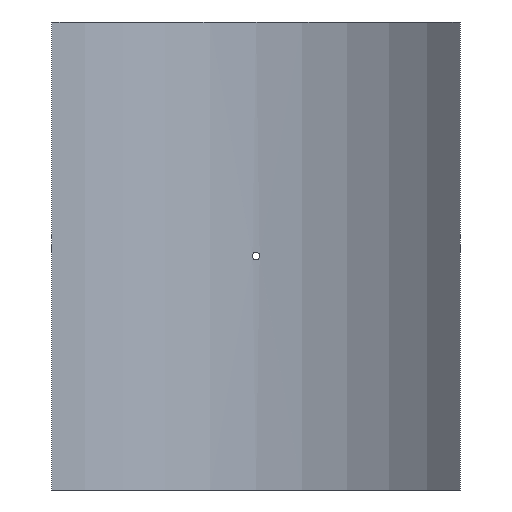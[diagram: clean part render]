
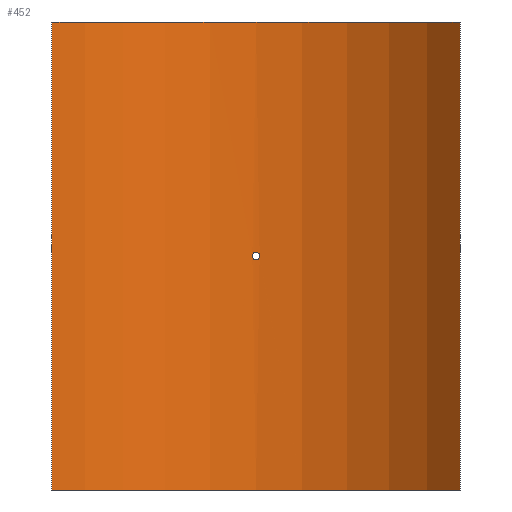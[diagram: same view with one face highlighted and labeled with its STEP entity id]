
A CAD part, front view. The second image highlights one B-rep face of the part: STEP entity #452.
In plain terms, the highlighted cylindrical face has radius 355 mm (diameter 710 mm), a partial arc.
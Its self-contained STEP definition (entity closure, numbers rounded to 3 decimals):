
#19=B_SPLINE_CURVE_WITH_KNOTS('',3,(#788,#789,#790,#791,#792,#793,#794,
#795,#796,#797,#798,#799,#800,#801,#802,#803,#804,#805,#806,#807,#808,#809,
#810,#811,#812,#813,#814,#815,#816,#817,#818,#819,#820,#821),
 .UNSPECIFIED.,.T.,.F.,(4,2,2,2,2,2,2,2,2,2,2,2,2,2,2,2,4),(0.,0.181,
0.362,0.542,0.723,0.904,
1.085,1.266,1.446,1.627,1.808,
1.989,2.17,2.351,2.531,2.712,
2.893),.UNSPECIFIED.);
#43=LINE('',#1081,#62);
#44=LINE('',#1084,#63);
#62=VECTOR('',#661,10.);
#63=VECTOR('',#664,10.);
#76=CYLINDRICAL_SURFACE('',#530,355.);
#88=FACE_BOUND('',#167,.T.);
#127=FACE_OUTER_BOUND('',#166,.T.);
#166=EDGE_LOOP('',(#405,#406,#407,#408));
#167=EDGE_LOOP('',(#409));
#201=CIRCLE('',#529,355.);
#202=CIRCLE('',#531,355.);
#219=VERTEX_POINT('',#786);
#242=VERTEX_POINT('',#1074);
#243=VERTEX_POINT('',#1076);
#244=VERTEX_POINT('',#1080);
#245=VERTEX_POINT('',#1082);
#267=EDGE_CURVE('',#219,#219,#19,.T.);
#299=EDGE_CURVE('',#242,#243,#201,.T.);
#301=EDGE_CURVE('',#244,#242,#43,.T.);
#302=EDGE_CURVE('',#245,#244,#202,.T.);
#303=EDGE_CURVE('',#245,#243,#44,.T.);
#405=ORIENTED_EDGE('',*,*,#301,.F.);
#406=ORIENTED_EDGE('',*,*,#302,.F.);
#407=ORIENTED_EDGE('',*,*,#303,.T.);
#408=ORIENTED_EDGE('',*,*,#299,.F.);
#409=ORIENTED_EDGE('',*,*,#267,.T.);
#452=ADVANCED_FACE('',(#127,#88),#76,.F.);
#529=AXIS2_PLACEMENT_3D('',#1077,#656,#657);
#530=AXIS2_PLACEMENT_3D('',#1079,#659,#660);
#531=AXIS2_PLACEMENT_3D('',#1083,#662,#663);
#656=DIRECTION('center_axis',(0.,0.,1.));
#657=DIRECTION('ref_axis',(0.749,0.662,0.));
#659=DIRECTION('center_axis',(0.,0.,1.));
#660=DIRECTION('ref_axis',(0.749,0.662,0.));
#661=DIRECTION('',(0.,0.,-1.));
#662=DIRECTION('center_axis',(0.,0.,-1.));
#663=DIRECTION('ref_axis',(0.749,0.662,0.));
#664=DIRECTION('',(0.,0.,-1.));
#786=CARTESIAN_POINT('',(4.8,354.968,0.));
#788=CARTESIAN_POINT('Ctrl Pts',(4.8,354.968,0.));
#789=CARTESIAN_POINT('Ctrl Pts',(4.8,354.968,-0.603));
#790=CARTESIAN_POINT('Ctrl Pts',(4.68,354.969,-1.246));
#791=CARTESIAN_POINT('Ctrl Pts',(4.19,354.975,-2.428));
#792=CARTESIAN_POINT('Ctrl Pts',(3.82,354.98,-2.968));
#793=CARTESIAN_POINT('Ctrl Pts',(2.968,354.988,-3.82));
#794=CARTESIAN_POINT('Ctrl Pts',(2.428,354.992,-4.19));
#795=CARTESIAN_POINT('Ctrl Pts',(1.246,354.998,-4.68));
#796=CARTESIAN_POINT('Ctrl Pts',(0.603,355.,-4.8));
#797=CARTESIAN_POINT('Ctrl Pts',(-0.603,355.,-4.8));
#798=CARTESIAN_POINT('Ctrl Pts',(-1.246,354.998,-4.68));
#799=CARTESIAN_POINT('Ctrl Pts',(-2.428,354.992,-4.19));
#800=CARTESIAN_POINT('Ctrl Pts',(-2.968,354.988,-3.82));
#801=CARTESIAN_POINT('Ctrl Pts',(-3.82,354.98,-2.968));
#802=CARTESIAN_POINT('Ctrl Pts',(-4.19,354.975,-2.428));
#803=CARTESIAN_POINT('Ctrl Pts',(-4.68,354.969,-1.246));
#804=CARTESIAN_POINT('Ctrl Pts',(-4.8,354.968,-0.603));
#805=CARTESIAN_POINT('Ctrl Pts',(-4.8,354.968,0.603));
#806=CARTESIAN_POINT('Ctrl Pts',(-4.68,354.969,1.246));
#807=CARTESIAN_POINT('Ctrl Pts',(-4.19,354.975,2.428));
#808=CARTESIAN_POINT('Ctrl Pts',(-3.82,354.98,2.968));
#809=CARTESIAN_POINT('Ctrl Pts',(-2.968,354.988,3.82));
#810=CARTESIAN_POINT('Ctrl Pts',(-2.428,354.992,4.19));
#811=CARTESIAN_POINT('Ctrl Pts',(-1.246,354.998,4.68));
#812=CARTESIAN_POINT('Ctrl Pts',(-0.603,355.,4.8));
#813=CARTESIAN_POINT('Ctrl Pts',(0.603,355.,4.8));
#814=CARTESIAN_POINT('Ctrl Pts',(1.246,354.998,4.68));
#815=CARTESIAN_POINT('Ctrl Pts',(2.428,354.992,4.19));
#816=CARTESIAN_POINT('Ctrl Pts',(2.968,354.988,3.82));
#817=CARTESIAN_POINT('Ctrl Pts',(3.82,354.98,2.968));
#818=CARTESIAN_POINT('Ctrl Pts',(4.19,354.975,2.428));
#819=CARTESIAN_POINT('Ctrl Pts',(4.68,354.969,1.246));
#820=CARTESIAN_POINT('Ctrl Pts',(4.8,354.968,0.603));
#821=CARTESIAN_POINT('Ctrl Pts',(4.8,354.968,0.));
#1074=CARTESIAN_POINT('',(266.,235.094,-305.));
#1076=CARTESIAN_POINT('',(-266.,235.094,-305.));
#1077=CARTESIAN_POINT('Origin',(0.,0.,
-305.));
#1079=CARTESIAN_POINT('Origin',(0.,0.,
0.));
#1080=CARTESIAN_POINT('',(266.,235.094,305.));
#1081=CARTESIAN_POINT('',(266.,235.094,0.));
#1082=CARTESIAN_POINT('',(-266.,235.094,305.));
#1083=CARTESIAN_POINT('Origin',(0.,0.,
305.));
#1084=CARTESIAN_POINT('',(-266.,235.094,0.));
